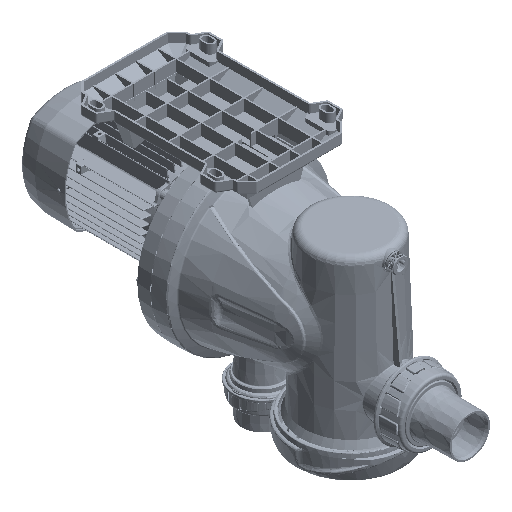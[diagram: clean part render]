
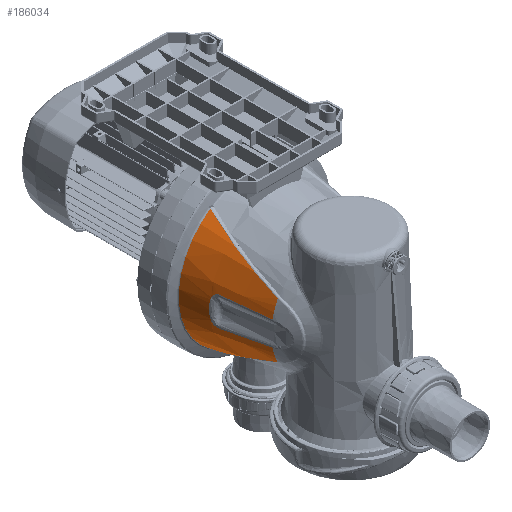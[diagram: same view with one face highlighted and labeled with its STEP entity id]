
A CAD part, isometric view. The second image highlights one B-rep face of the part: STEP entity #186034.
In plain terms, the highlighted conical face has half-angle 10 degrees and reference radius 95.55 mm.
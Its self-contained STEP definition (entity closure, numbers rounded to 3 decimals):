
#180118=CARTESIAN_POINT('',(0.,-78.117,-10.));
#180119=DIRECTION('',(0.,1.,0.));
#180120=DIRECTION('',(-0.572,0.,-0.82));
#180121=AXIS2_PLACEMENT_3D('',#180118,#180119,#180120);
#180123=CARTESIAN_POINT('',(-60.35,-78.117,
76.439));
#180124=CARTESIAN_POINT('',(-63.339,-88.264,
72.17));
#180125=CARTESIAN_POINT('',(-68.644,-110.199,
62.937));
#180126=CARTESIAN_POINT('',(-74.26,-148.724,
46.683));
#180127=CARTESIAN_POINT('',(-75.924,-175.966,
35.155));
#180128=CARTESIAN_POINT('',(-76.203,-190.09,
29.165));
#180130=CARTESIAN_POINT('',(-94.807,-125.253,
11.026));
#180131=CARTESIAN_POINT('',(-93.47,-132.969,
10.771));
#180132=CARTESIAN_POINT('',(-90.882,-148.06,
10.153));
#180133=CARTESIAN_POINT('',(-87.259,-169.596,
8.948));
#180134=CARTESIAN_POINT('',(-84.986,-183.365,
7.966));
#180135=CARTESIAN_POINT('',(-83.887,-190.09,
7.429));
#180137=CARTESIAN_POINT('',(-94.807,-125.253,
-31.026));
#180138=CARTESIAN_POINT('',(-94.933,-124.526,
-31.05));
#180139=CARTESIAN_POINT('',(-95.222,-123.11,
-30.903));
#180140=CARTESIAN_POINT('',(-95.749,-121.108,
-30.139));
#180141=CARTESIAN_POINT('',(-96.383,-119.189,
-28.728));
#180142=CARTESIAN_POINT('',(-97.071,-117.53,
-26.62));
#180143=CARTESIAN_POINT('',(-97.721,-116.286,
-23.921));
#180144=CARTESIAN_POINT('',(-98.27,-115.477,
-20.734));
#180145=CARTESIAN_POINT('',(-98.665,-115.051,
-17.254));
#180146=CARTESIAN_POINT('',(-98.896,-114.877,
-13.648));
#180147=CARTESIAN_POINT('',(-98.971,-114.834,
-9.979));
#180148=CARTESIAN_POINT('',(-98.894,-114.878,
-6.308));
#180149=CARTESIAN_POINT('',(-98.66,-115.055,
-2.695));
#180150=CARTESIAN_POINT('',(-98.263,-115.486,
0.782));
#180151=CARTESIAN_POINT('',(-97.714,-116.297,
3.95));
#180152=CARTESIAN_POINT('',(-97.067,-117.537,
6.629));
#180153=CARTESIAN_POINT('',(-96.384,-119.188,
8.724));
#180154=CARTESIAN_POINT('',(-95.754,-121.09,
10.129));
#180155=CARTESIAN_POINT('',(-95.224,-123.1,
10.902));
#180156=CARTESIAN_POINT('',(-94.934,-124.522,
11.05));
#180157=CARTESIAN_POINT('',(-94.807,-125.253,
11.026));
#180159=CARTESIAN_POINT('',(-83.887,-190.09,
-27.429));
#180160=CARTESIAN_POINT('',(-84.986,-183.365,
-27.966));
#180161=CARTESIAN_POINT('',(-87.259,-169.596,
-28.948));
#180162=CARTESIAN_POINT('',(-90.882,-148.06,
-30.153));
#180163=CARTESIAN_POINT('',(-93.47,-132.969,
-30.771));
#180164=CARTESIAN_POINT('',(-94.807,-125.253,
-31.026));
#180166=CARTESIAN_POINT('',(-76.203,-190.09,
-49.165));
#180167=CARTESIAN_POINT('',(-75.924,-175.962,
-55.157));
#180168=CARTESIAN_POINT('',(-74.259,-148.716,
-66.687));
#180169=CARTESIAN_POINT('',(-68.644,-110.2,
-82.937));
#180170=CARTESIAN_POINT('',(-63.339,-88.265,
-92.17));
#180171=CARTESIAN_POINT('',(-60.35,-78.117,
-96.439));
#180178=CARTESIAN_POINT('',(0.,-190.09,-10.));
#180179=DIRECTION('',(0.,1.,0.));
#180180=DIRECTION('',(-0.889,0.,-0.457));
#180181=AXIS2_PLACEMENT_3D('',#180178,#180179,#180180);
#180202=CARTESIAN_POINT('',(-83.887,-190.09,
-27.429));
#180204=CARTESIAN_POINT('',(0.,-190.09,-10.));
#180205=DIRECTION('',(0.,1.,0.));
#180206=DIRECTION('',(-0.979,0.,0.203));
#180207=AXIS2_PLACEMENT_3D('',#180204,#180205,#180206);
#181952=CARTESIAN_POINT('',(-60.35,-78.117,
-96.439));
#184502=VERTEX_POINT('',#180137);
#184503=VERTEX_POINT('',#180157);
#184506=VERTEX_POINT('',#180135);
#184508=VERTEX_POINT('',#180202);
#184567=CARTESIAN_POINT('',(-76.203,-190.09,
-49.165));
#184569=VERTEX_POINT('',#184567);
#184574=CARTESIAN_POINT('',(-76.203,-190.09,
29.165));
#184575=VERTEX_POINT('',#184574);
#184638=VERTEX_POINT('',#181952);
#184640=CARTESIAN_POINT('',(-60.35,-78.117,
76.439));
#184641=VERTEX_POINT('',#184640);
#186011=CARTESIAN_POINT('',(0.,-134.104,-10.));
#186012=DIRECTION('',(0.,1.,0.));
#186013=DIRECTION('',(0.,0.,1.));
#186014=AXIS2_PLACEMENT_3D('',#186011,#186012,#186013);
#186015=CONICAL_SURFACE('',#186014,95.55,10.);
#186017=ORIENTED_EDGE('',*,*,#186016,.T.);
#186019=ORIENTED_EDGE('',*,*,#186018,.T.);
#186021=ORIENTED_EDGE('',*,*,#186020,.F.);
#186023=ORIENTED_EDGE('',*,*,#186022,.F.);
#186025=ORIENTED_EDGE('',*,*,#186024,.F.);
#186027=ORIENTED_EDGE('',*,*,#186026,.F.);
#186029=ORIENTED_EDGE('',*,*,#186028,.F.);
#186031=ORIENTED_EDGE('',*,*,#186030,.T.);
#186032=EDGE_LOOP('',(#186017,#186019,#186021,#186023,#186025,#186027,#186029,
#186031));
#186033=FACE_OUTER_BOUND('',#186032,.F.);
#186034=ADVANCED_FACE('',(#186033),#186015,.T.);
#180122=CIRCLE('',#180121,105.422);
#180129=B_SPLINE_CURVE_WITH_KNOTS('',3,(#180123,#180124,#180125,#180126,#180127,
#180128),.UNSPECIFIED.,.F.,.F.,(4,1,1,4),(0.,0.333,
0.667,1.),.UNSPECIFIED.);
#180136=B_SPLINE_CURVE_WITH_KNOTS('',3,(#180130,#180131,#180132,#180133,#180134,
#180135),.UNSPECIFIED.,.F.,.F.,(4,1,1,4),(0.,0.333,
0.667,1.),.UNSPECIFIED.);
#180158=B_SPLINE_CURVE_WITH_KNOTS('',3,(#180137,#180138,#180139,#180140,#180141,
#180142,#180143,#180144,#180145,#180146,#180147,#180148,#180149,#180150,#180151,
#180152,#180153,#180154,#180155,#180156,#180157),.UNSPECIFIED.,.F.,.F.,(4,1,1,1,
1,1,1,1,1,1,1,1,1,1,1,1,1,1,4),(0.,0.056,0.111,
0.167,0.222,0.278,0.333,
0.389,0.444,0.5,0.556,0.611,
0.667,0.722,0.778,0.833,
0.889,0.944,1.),.UNSPECIFIED.);
#180165=B_SPLINE_CURVE_WITH_KNOTS('',3,(#180159,#180160,#180161,#180162,#180163,
#180164),.UNSPECIFIED.,.F.,.F.,(4,1,1,4),(0.,0.333,
0.667,1.),.UNSPECIFIED.);
#180172=B_SPLINE_CURVE_WITH_KNOTS('',3,(#180166,#180167,#180168,#180169,#180170,
#180171),.UNSPECIFIED.,.F.,.F.,(4,1,1,4),(0.,0.333,
0.667,1.),.UNSPECIFIED.);
#180182=CIRCLE('',#180181,85.678);
#180208=CIRCLE('',#180207,85.678);
#186016=EDGE_CURVE('',#184638,#184641,#180122,.T.);
#186018=EDGE_CURVE('',#184641,#184575,#180129,.T.);
#186020=EDGE_CURVE('',#184506,#184575,#180208,.T.);
#186022=EDGE_CURVE('',#184503,#184506,#180136,.T.);
#186024=EDGE_CURVE('',#184502,#184503,#180158,.T.);
#186026=EDGE_CURVE('',#184508,#184502,#180165,.T.);
#186028=EDGE_CURVE('',#184569,#184508,#180182,.T.);
#186030=EDGE_CURVE('',#184569,#184638,#180172,.T.);
